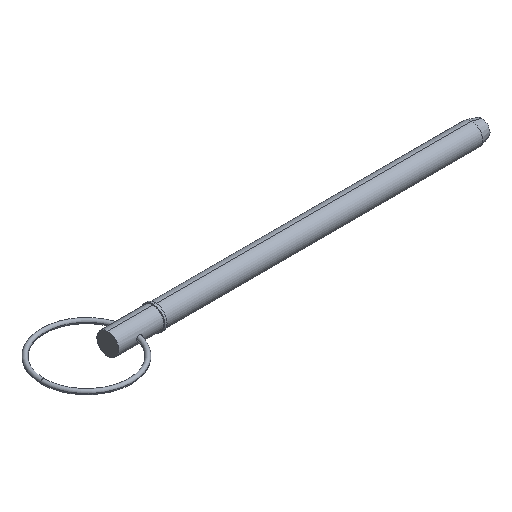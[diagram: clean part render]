
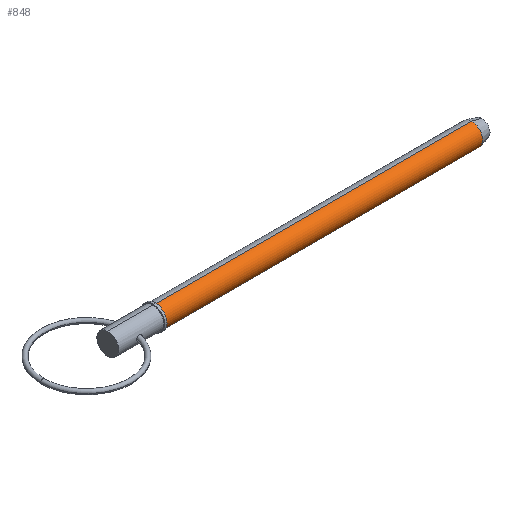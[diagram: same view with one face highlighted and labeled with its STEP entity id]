
A CAD part, isometric view. The second image highlights one B-rep face of the part: STEP entity #848.
In plain terms, the highlighted cylindrical face has radius 5.555 mm (diameter 11.11 mm), a partial arc.
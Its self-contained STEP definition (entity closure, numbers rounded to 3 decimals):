
#35 = LINE ( 'NONE', #452, #263 ) ;
#84 = VECTOR ( 'NONE', #894, 1000. ) ;
#101 = CARTESIAN_POINT ( 'NONE',  ( 24.13, 0., 5.555 ) ) ;
#103 = LINE ( 'NONE', #494, #84 ) ;
#148 = CARTESIAN_POINT ( 'NONE',  ( 24.13, 0., -5.555 ) ) ;
#151 = VERTEX_POINT ( 'NONE', #148 ) ;
#157 = EDGE_CURVE ( 'NONE', #794, #191, #290, .T. ) ;
#163 = FACE_OUTER_BOUND ( 'NONE', #272, .T. ) ;
#191 = VERTEX_POINT ( 'NONE', #305 ) ;
#263 = VECTOR ( 'NONE', #363, 1000. ) ;
#272 = EDGE_LOOP ( 'NONE', ( #579, #444, #737, #601 ) ) ;
#289 = VERTEX_POINT ( 'NONE', #101 ) ;
#290 = CIRCLE ( 'NONE', #458, 5.555 ) ;
#295 = DIRECTION ( 'NONE',  ( 0., 0., -1. ) ) ;
#305 = CARTESIAN_POINT ( 'NONE',  ( 185.617, 0., -5.555 ) ) ;
#323 = EDGE_CURVE ( 'NONE', #151, #191, #103, .T. ) ;
#363 = DIRECTION ( 'NONE',  ( 1., 0., 0. ) ) ;
#364 = AXIS2_PLACEMENT_3D ( 'NONE', #441, #849, #295 ) ;
#441 = CARTESIAN_POINT ( 'NONE',  ( 24.13, 0., 0. ) ) ;
#444 = ORIENTED_EDGE ( 'NONE', *, *, #738, .T. ) ;
#452 = CARTESIAN_POINT ( 'NONE',  ( 0., 0., 5.555 ) ) ;
#458 = AXIS2_PLACEMENT_3D ( 'NONE', #551, #701, #717 ) ;
#494 = CARTESIAN_POINT ( 'NONE',  ( 0., 0., -5.555 ) ) ;
#514 = AXIS2_PLACEMENT_3D ( 'NONE', #805, #941, #644 ) ;
#551 = CARTESIAN_POINT ( 'NONE',  ( 185.617, 0., 0. ) ) ;
#579 = ORIENTED_EDGE ( 'NONE', *, *, #715, .F. ) ;
#601 = ORIENTED_EDGE ( 'NONE', *, *, #157, .F. ) ;
#644 = DIRECTION ( 'NONE',  ( 0., 0., -1. ) ) ;
#701 = DIRECTION ( 'NONE',  ( 1., 0., 0. ) ) ;
#715 = EDGE_CURVE ( 'NONE', #289, #794, #35, .T. ) ;
#717 = DIRECTION ( 'NONE',  ( 0., 0., -1. ) ) ;
#737 = ORIENTED_EDGE ( 'NONE', *, *, #323, .T. ) ;
#738 = EDGE_CURVE ( 'NONE', #289, #151, #885, .T. ) ;
#794 = VERTEX_POINT ( 'NONE', #994 ) ;
#805 = CARTESIAN_POINT ( 'NONE',  ( 0., 0., 0. ) ) ;
#809 = CYLINDRICAL_SURFACE ( 'NONE', #514, 5.555 ) ;
#848 = ADVANCED_FACE ( 'NONE', ( #163 ), #809, .T. ) ;
#849 = DIRECTION ( 'NONE',  ( 1., 0., 0. ) ) ;
#885 = CIRCLE ( 'NONE', #364, 5.555 ) ;
#894 = DIRECTION ( 'NONE',  ( 1., 0., 0. ) ) ;
#941 = DIRECTION ( 'NONE',  ( 1., 0., 0. ) ) ;
#994 = CARTESIAN_POINT ( 'NONE',  ( 185.617, 0., 5.555 ) ) ;
